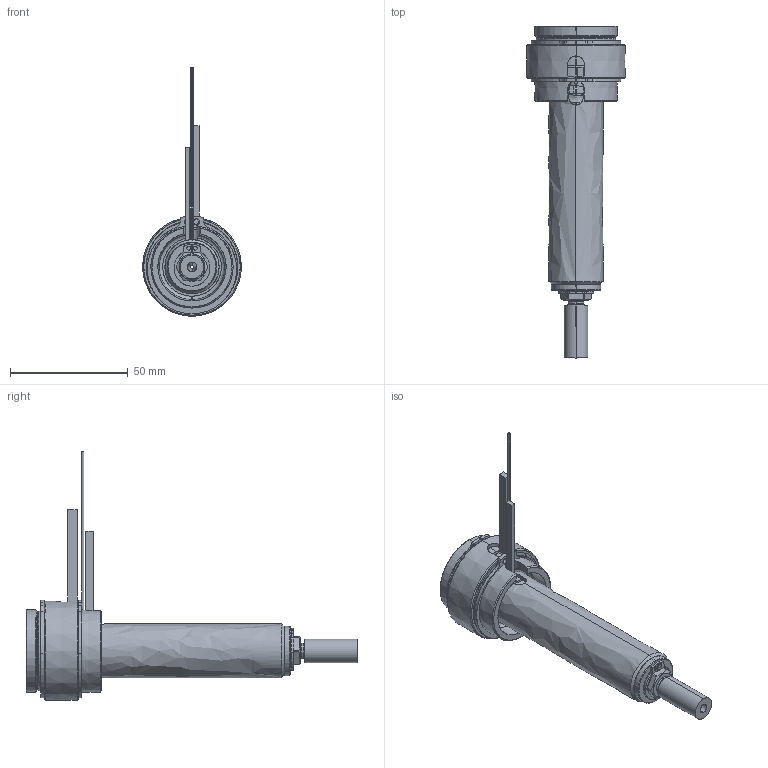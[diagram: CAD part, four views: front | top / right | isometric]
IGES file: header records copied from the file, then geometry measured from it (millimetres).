
Start section: SolidWorks IGES file using analytic representation for surfaces
Global section: file name: C:\Users\luca.EMPAD\Desktop\TEM\UGBE3502-S-A-P-3 [Ød-1.5 P-20 ØC-6.0].IGS; native system: SolidWorks 2012; preprocessor: SolidWorks 2012; author: luca; date: 120330.135643; units: millimetre
Bounding box: 42 x 141 x 105.6 mm (x, y, z)
Surface area: 29373.1 mm2 (no closed solid volume)
Topology: 0 solids, 0 shells, 191 faces, 3518 edges, 3518 vertices
Faces by surface type: revolution 122, bspline 69
